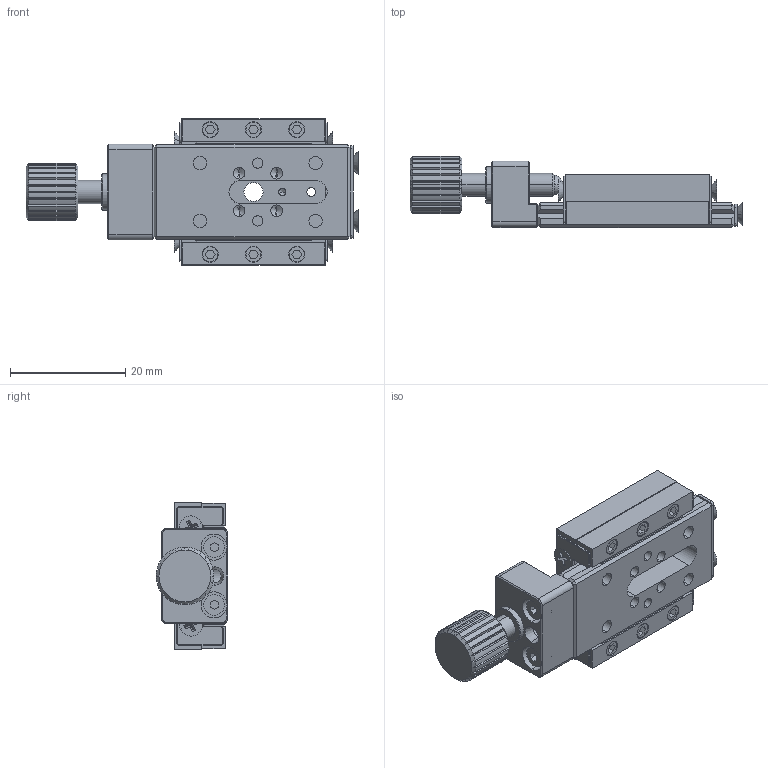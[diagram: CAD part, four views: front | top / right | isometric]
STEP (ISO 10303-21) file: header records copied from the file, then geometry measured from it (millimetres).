
FILE_DESCRIPTION (( 'STEP AP203' ), '1' );
FILE_NAME ('TCB25-03A.STEP', '2017-02-17T03:33:06', ( '' ), ( '' ), 'SwSTEP 2.0', 'SolidWorks 2012', '' );
FILE_SCHEMA (( 'CONFIG_CONTROL_DESIGN' ));
Length unit declared in the file: millimetre
Products named in the file (14): M4100tpiÁ³µ·...£r10X17.5L; TCB25-03A; M2x0.4P皿頭; M3x0.5P無沉頭x3L; M2x0.4Px10L; M4銅座; M1.6x0.3PX5L; TCB25-培林帶片; TCB25-鋼軌; TCB25-底板檔片; TCB25-MIC®y; TCB25-面板檔片; TCB25-面板; TCB25-底板
Assembly tree (27 placements, depth 2):
  TCB25-03A
    TCB25-底板
    TCB25-MIC®y
    TCB25-面板
    TCB25-面板檔片  x2
    TCB25-培林帶片  x2
    TCB25-鋼軌  x2
    TCB25-底板檔片
    M1.6x0.3PX5L  x6
    M2x0.4Px10L  x2
    M3x0.5P無沉頭x3L
    M4銅座
    M4100tpiÁ³µ·...£r10X17.5L
    M2x0.4P皿頭  x6
Bounding box: 57.5 x 12.45 x 25.4 mm (x, y, z)
Volume: 7222.5 mm3; surface area: 9263.2 mm2
Topology: 27 solids, 27 shells, 821 faces, 1982 edges, 1243 vertices
Faces by surface type: plane 408, cylinder 267, cone 112, sphere 34
Entity records: 18040 total; most frequent: CARTESIAN_POINT 3237, DIRECTION 2795, ORIENTED_EDGE 2582, EDGE_CURVE 1291, AXIS2_PLACEMENT_3D 1051, VERTEX_POINT 823, LINE 693, VECTOR 693
